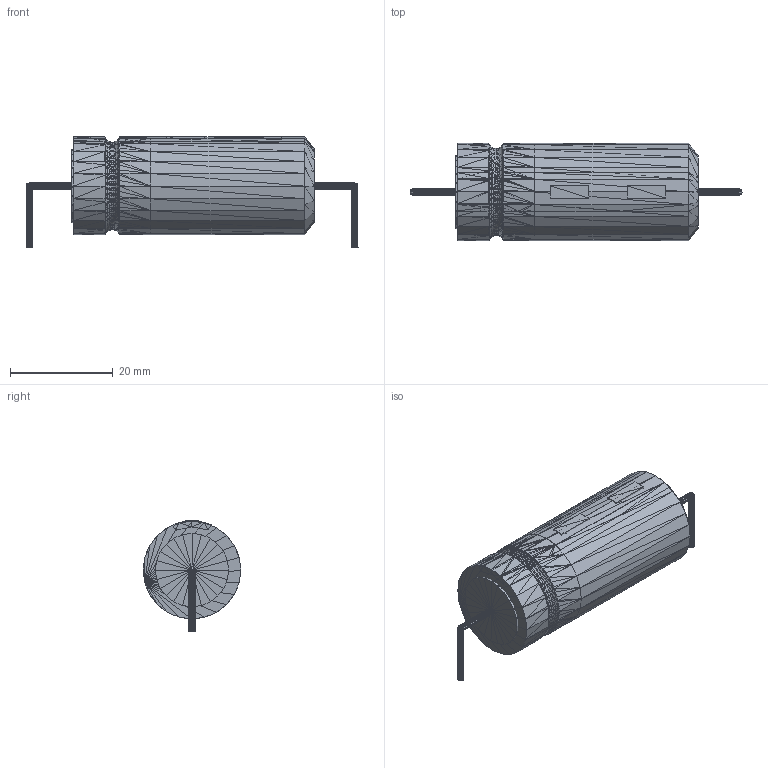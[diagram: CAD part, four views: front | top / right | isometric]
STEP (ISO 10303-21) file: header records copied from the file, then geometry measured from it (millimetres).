
FILE_DESCRIPTION(('HOOPS Exchange Step'),'2;1');
FILE_NAME('***.stp');
FILE_SCHEMA( ('AP242_MANAGED_MODEL_BASED_3D_ENGINEERING_MIM_LF {1 0 10303 442 1 1 4 }') );
Length unit declared in the file: inch
Products named in the file (16): AXPOLCAPLG_2; AXPOLCAPLG_3; AXPOLCAPLG_4; AXPOLCAPLG_5; AXPOLCAPLG_6; AXPOLCAPLG_7; AXPOLCAPLG_8; AXPOLCAPLG_9; AXPOLCAPLG_10; AXPOLCAPLG_11; AXPOLCAPLG_12; AXPOLCAPLG_13; AXPOLCAPLG_14; AXPOLCAPLG_15; AXPOLCAPLG_16; AXPOLCAPLG
Assembly tree (15 placements, depth 2):
  AXPOLCAPLG
    AXPOLCAPLG_2
    AXPOLCAPLG_3
    AXPOLCAPLG_4
    AXPOLCAPLG_5
    AXPOLCAPLG_6
    AXPOLCAPLG_7
    AXPOLCAPLG_8
    AXPOLCAPLG_9
    AXPOLCAPLG_10
    AXPOLCAPLG_11
    AXPOLCAPLG_12
    AXPOLCAPLG_13
    AXPOLCAPLG_14
    AXPOLCAPLG_15
    AXPOLCAPLG_16
Bounding box: 64.72 x 19.05 x 21.82 mm (x, y, z)
Volume: 13438.2 mm3; surface area: 6186.3 mm2
Topology: 14 solids, 16 shells, 3001 faces, 4512 edges, 1539 vertices
Faces by surface type: plane 3001
Entity records: 59336 total; most frequent: DIRECTION 10578, CARTESIAN_POINT 9084, ORIENTED_EDGE 9003, VECTOR 4512, LINE 4512, EDGE_CURVE 4512, AXIS2_PLACEMENT_3D 3033, PLANE 3001
